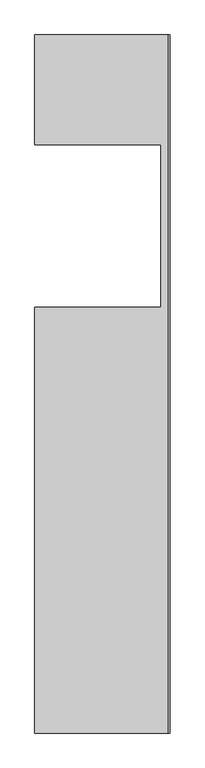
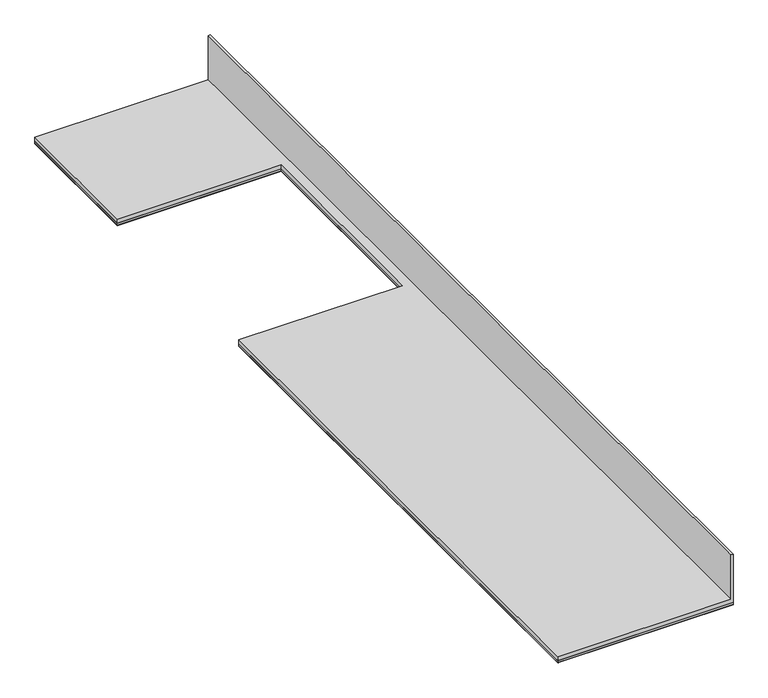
"""IFC4 building model written with IfcOpenShell, lengths in millimetres: proxy geometry, 天花板加长-经理室2 : 天花板加长-经理室2."""

from ifc_helpers import new_model, si_unit, frame, origin, place, context, project, spatial, polyline, outline, extrude, faceted_brep, source, transform, mapped, element, save


def generic_models_62f47bfb(model_context):
    return source(origin(), model_context, "Body", "SolidModel", [
        faceted_brep([(5910.0000006, 1209.9923684, 2829.0), (6651.0000014, 1209.9923684, 2829.0), (6651.0000014, 1209.9923684, 3029.0), (6660.0000014, 1209.9923684, 3029.0), (6660.0000014, 1209.9923684, 2811.0), (5910.0000006, 1209.9923684, 2811.0), (5910.0000006, -2659.8975825, 2829.0), (5910.0000006, -2659.8975825, 2811.0), (6660.0000014, -2659.8975825, 2811.0), (6660.0000014, -2659.8975825, 3029.0), (6651.0000014, -2659.8975825, 3029.0), (6651.0000014, -2659.8975825, 2829.0), (5910.0000006, 600.0000384, 2829.0), (6610.0000007, 600.0000384, 2829.0), (6610.0000007, -299.9999616, 2829.0), (5910.0000006, -299.9999616, 2829.0), (5910.0000006, -299.9999616, 2811.0), (6610.0000007, -299.9999616, 2811.0), (6610.0000007, 600.0000384, 2811.0), (5910.0000006, 600.0000384, 2811.0)], [[[0, 1, 2, 3, 4, 5]], [[6, 7, 8, 9, 10, 11]], [[1, 0, 12, 13, 14, 15, 6, 11]], [[5, 4, 8, 7, 16, 17, 18, 19]], [[0, 5, 19, 12]], [[7, 6, 15, 16]], [[2, 1, 11, 10]], [[3, 2, 10, 9]], [[4, 3, 9, 8]], [[18, 13, 12, 19]], [[14, 17, 16, 15]], [[13, 18, 17, 14]]]),
        extrude(outline(polyline([(5910.0000006, 1209.9923684), (6660.0000014, 1209.9923684), (6660.0000014, -2659.8975825), (5910.0000006, -2659.8975825), (5910.0000006, -299.9999616), (6610.0000007, -299.9999616), (6610.0000007, 600.0000384), (5910.0000006, 600.0000384), (5910.0000006, 1209.9923684)])), frame((0.0, 0.0, 2802.0), z_axis=(0.0, 0.0, 1.0), x_axis=(1.0, 0.0, 0.0)), (0.0, 0.0, 1.0), 9.0),
        extrude(outline(polyline([(5910.0000006, 1209.9923684), (6660.0000014, 1209.9923684), (6660.0000014, -2659.8975825), (5910.0000006, -2659.8975825), (5910.0000006, -299.9999616), (6610.0000007, -299.9999616), (6610.0000007, 600.0000384), (5910.0000006, 600.0000384), (5910.0000006, 1209.9923684)])), frame((0.0, 0.0, 2800.0), z_axis=(0.0, 0.0, 1.0), x_axis=(1.0, 0.0, 0.0)), (0.0, 0.0, 1.0), 2.0),
    ])


if __name__ == "__main__":
    model = new_model("IFC4")
    model_context = context("Model", 3, world=origin())
    ifc_project = project(units=[si_unit("LENGTHUNIT", "METRE", prefix="MILLI")], contexts=[model_context])
    site = spatial("IfcSite", under=ifc_project)
    building = spatial("IfcBuilding", under=site)
    placement = place(None, origin())
    generic_models_shape = generic_models_62f47bfb(model_context)
    element("IfcBuildingElementProxy", 1, Name="天花板加长-经理室2 : 天花板加长-经理室2", ObjectType="天花板加长-经理室2 : 天花板加长-经理室2", at=placement, inside=building, context=model_context, shape_type="MappedRepresentation", body=[
        mapped(generic_models_shape, transform((0.0, 0.0, 0.0), x_axis=(1.0, 0.0, 0.0), y_axis=(0.0, 1.0, 0.0), z_axis=(0.0, 0.0, 1.0))),
    ])
    save(model, "model.ifc")
